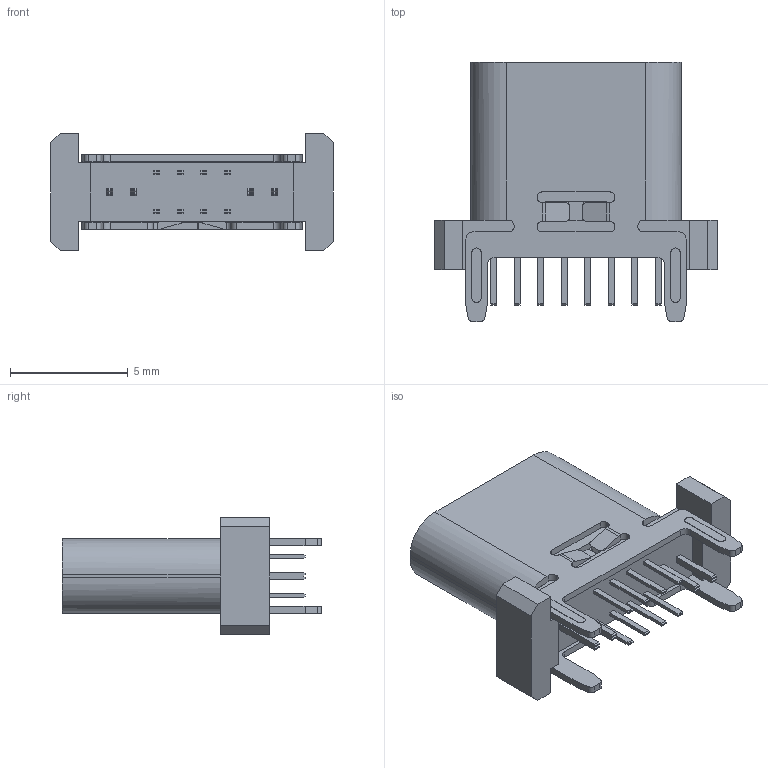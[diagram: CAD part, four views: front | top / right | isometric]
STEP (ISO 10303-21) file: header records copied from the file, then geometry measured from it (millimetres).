
FILE_DESCRIPTION (( 'STEP AP214' ), '1' );
FILE_NAME ('2.STEP', '2021-11-02T05:53:05', ( '微软用户' ), ( '微软中国' ), 'SwSTEP 2.0', 'SolidWorks 2012', '' );
FILE_SCHEMA (( 'AUTOMOTIVE_DESIGN' ));
Length unit declared in the file: millimetre
Products named in the file (1): 2
Bounding box: 12 x 11 x 5 mm (x, y, z)
Volume: 177.4 mm3; surface area: 622.7 mm2
Topology: 1 solids, 1 shells, 452 faces, 1303 edges, 862 vertices
Faces by surface type: plane 342, cylinder 102, cone 8
Entity records: 14875 total; most frequent: CARTESIAN_POINT 2900, ORIENTED_EDGE 2606, DIRECTION 2338, EDGE_CURVE 1303, VECTOR 1030, LINE 1030, VERTEX_POINT 862, AXIS2_PLACEMENT_3D 654
